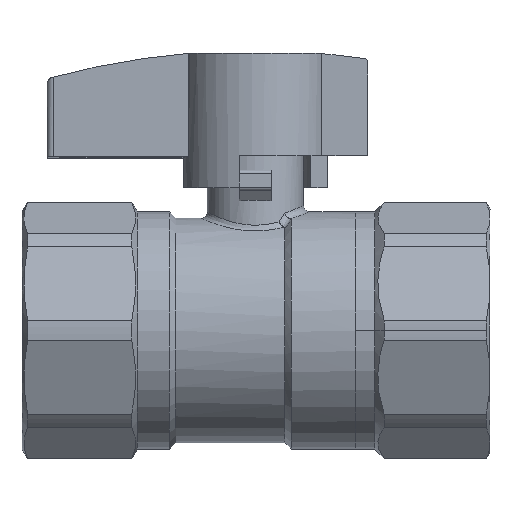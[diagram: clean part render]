
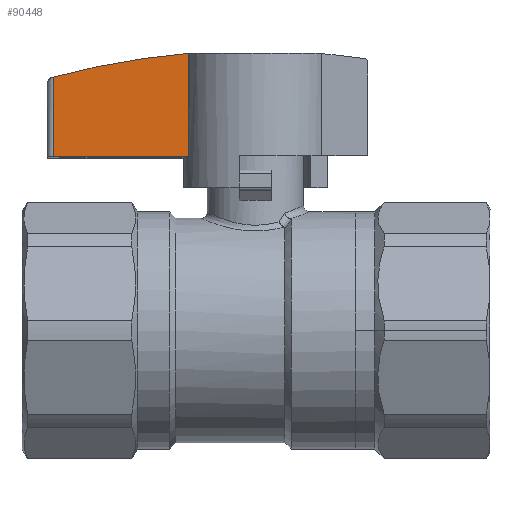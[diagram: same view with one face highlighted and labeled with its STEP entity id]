
A CAD part, front view. The second image highlights one B-rep face of the part: STEP entity #90448.
In plain terms, the highlighted planar face has unit normal (0, -1, 0).
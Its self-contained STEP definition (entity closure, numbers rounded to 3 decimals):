
#88763 = PLANE('',#88764);
#88764 = AXIS2_PLACEMENT_3D('',#88765,#88766,#88767);
#88765 = CARTESIAN_POINT('',(35.847,-10.48,
    -42.009));
#88766 = DIRECTION('',(0.,-0.017,
    -1.));
#88767 = DIRECTION('',(0.,1.,
    -0.017));
#89151 = CYLINDRICAL_SURFACE('',#89152,4.728);
#89152 = AXIS2_PLACEMENT_3D('',#89153,#89154,#89155);
#89153 = CARTESIAN_POINT('',(35.147,-10.48,
    -46.084));
#89154 = DIRECTION('',(0.,1.,0.));
#89155 = DIRECTION('',(0.,0.,1.));
#89532 = EDGE_CURVE('',#89533,#89535,#89537,.T.);
#89533 = VERTEX_POINT('',#89534);
#89534 = CARTESIAN_POINT('',(33.917,-10.48,
    -42.009));
#89535 = VERTEX_POINT('',#89536);
#89536 = CARTESIAN_POINT('',(34.75,-10.48,
    -42.009));
#89537 = SURFACE_CURVE('',#89538,(#89542,#89549),.PCURVE_S1.);
#89538 = LINE('',#89539,#89540);
#89539 = CARTESIAN_POINT('',(35.847,-10.48,
    -42.009));
#89540 = VECTOR('',#89541,1.);
#89541 = DIRECTION('',(1.,0.,0.));
#89542 = PCURVE('',#88763,#89543);
#89543 = DEFINITIONAL_REPRESENTATION('',(#89544),#89548);
#89544 = LINE('',#89545,#89546);
#89545 = CARTESIAN_POINT('',(0.,0.));
#89546 = VECTOR('',#89547,1.);
#89547 = DIRECTION('',(0.,1.));
#89548 = ( GEOMETRIC_REPRESENTATION_CONTEXT(2) 
PARAMETRIC_REPRESENTATION_CONTEXT() REPRESENTATION_CONTEXT('2D SPACE',''
  ) );
#89549 = PCURVE('',#89550,#89555);
#89550 = PLANE('',#89551);
#89551 = AXIS2_PLACEMENT_3D('',#89552,#89553,#89554);
#89552 = CARTESIAN_POINT('',(35.147,-10.48,
    -46.084));
#89553 = DIRECTION('',(0.,-1.,0.));
#89554 = DIRECTION('',(0.,0.,-1.));
#89555 = DEFINITIONAL_REPRESENTATION('',(#89556),#89560);
#89556 = LINE('',#89557,#89558);
#89557 = CARTESIAN_POINT('',(-4.075,0.7));
#89558 = VECTOR('',#89559,1.);
#89559 = DIRECTION('',(0.,1.));
#89560 = ( GEOMETRIC_REPRESENTATION_CONTEXT(2) 
PARAMETRIC_REPRESENTATION_CONTEXT() REPRESENTATION_CONTEXT('2D SPACE',''
  ) );
#89580 = CYLINDRICAL_SURFACE('',#89581,0.039);
#89581 = AXIS2_PLACEMENT_3D('',#89582,#89583,#89584);
#89582 = CARTESIAN_POINT('',(33.917,-10.44,
    -46.084));
#89583 = DIRECTION('',(0.,0.,1.));
#89584 = DIRECTION('',(-1.,0.,0.));
#89777 = CYLINDRICAL_SURFACE('',#89778,0.453);
#89778 = AXIS2_PLACEMENT_3D('',#89779,#89780,#89781);
#89779 = CARTESIAN_POINT('',(35.158,-10.283,
    -40.09));
#89780 = DIRECTION('',(0.,0.,-1.));
#89781 = DIRECTION('',(1.,0.,0.));
#90448 = ADVANCED_FACE('',(#90449),#89550,.T.);
#90449 = FACE_BOUND('',#90450,.T.);
#90450 = EDGE_LOOP('',(#90451,#90477,#90498,#90499));
#90451 = ORIENTED_EDGE('',*,*,#90452,.T.);
#90452 = EDGE_CURVE('',#90453,#90455,#90457,.T.);
#90453 = VERTEX_POINT('',#90454);
#90454 = CARTESIAN_POINT('',(34.75,-10.48,
    -41.373));
#90455 = VERTEX_POINT('',#90456);
#90456 = CARTESIAN_POINT('',(33.917,-10.48,
    -41.519));
#90457 = SURFACE_CURVE('',#90458,(#90463,#90470),.PCURVE_S1.);
#90458 = CIRCLE('',#90459,4.728);
#90459 = AXIS2_PLACEMENT_3D('',#90460,#90461,#90462);
#90460 = CARTESIAN_POINT('',(35.147,-10.48,
    -46.084));
#90461 = DIRECTION('',(0.,-1.,0.));
#90462 = DIRECTION('',(0.,0.,-1.));
#90463 = PCURVE('',#89550,#90464);
#90464 = DEFINITIONAL_REPRESENTATION('',(#90465),#90469);
#90465 = CIRCLE('',#90466,4.728);
#90466 = AXIS2_PLACEMENT_2D('',#90467,#90468);
#90467 = CARTESIAN_POINT('',(0.,0.));
#90468 = DIRECTION('',(1.,0.));
#90469 = ( GEOMETRIC_REPRESENTATION_CONTEXT(2) 
PARAMETRIC_REPRESENTATION_CONTEXT() REPRESENTATION_CONTEXT('2D SPACE',''
  ) );
#90470 = PCURVE('',#89151,#90471);
#90471 = DEFINITIONAL_REPRESENTATION('',(#90472),#90476);
#90472 = LINE('',#90473,#90474);
#90473 = CARTESIAN_POINT('',(9.425,0.));
#90474 = VECTOR('',#90475,1.);
#90475 = DIRECTION('',(-1.,0.));
#90476 = ( GEOMETRIC_REPRESENTATION_CONTEXT(2) 
PARAMETRIC_REPRESENTATION_CONTEXT() REPRESENTATION_CONTEXT('2D SPACE',''
  ) );
#90477 = ORIENTED_EDGE('',*,*,#90478,.T.);
#90478 = EDGE_CURVE('',#90455,#89533,#90479,.T.);
#90479 = SURFACE_CURVE('',#90480,(#90484,#90491),.PCURVE_S1.);
#90480 = LINE('',#90481,#90482);
#90481 = CARTESIAN_POINT('',(33.917,-10.48,
    -42.009));
#90482 = VECTOR('',#90483,1.);
#90483 = DIRECTION('',(0.,0.,-1.));
#90484 = PCURVE('',#89550,#90485);
#90485 = DEFINITIONAL_REPRESENTATION('',(#90486),#90490);
#90486 = LINE('',#90487,#90488);
#90487 = CARTESIAN_POINT('',(-4.075,-1.231));
#90488 = VECTOR('',#90489,1.);
#90489 = DIRECTION('',(1.,0.));
#90490 = ( GEOMETRIC_REPRESENTATION_CONTEXT(2) 
PARAMETRIC_REPRESENTATION_CONTEXT() REPRESENTATION_CONTEXT('2D SPACE',''
  ) );
#90491 = PCURVE('',#89580,#90492);
#90492 = DEFINITIONAL_REPRESENTATION('',(#90493),#90497);
#90493 = LINE('',#90494,#90495);
#90494 = CARTESIAN_POINT('',(1.571,4.075));
#90495 = VECTOR('',#90496,1.);
#90496 = DIRECTION('',(0.,-1.));
#90497 = ( GEOMETRIC_REPRESENTATION_CONTEXT(2) 
PARAMETRIC_REPRESENTATION_CONTEXT() REPRESENTATION_CONTEXT('2D SPACE',''
  ) );
#90498 = ORIENTED_EDGE('',*,*,#89532,.T.);
#90499 = ORIENTED_EDGE('',*,*,#90500,.F.);
#90500 = EDGE_CURVE('',#90453,#89535,#90501,.T.);
#90501 = SURFACE_CURVE('',#90502,(#90506,#90513),.PCURVE_S1.);
#90502 = LINE('',#90503,#90504);
#90503 = CARTESIAN_POINT('',(34.75,-10.48,
    -40.09));
#90504 = VECTOR('',#90505,1.);
#90505 = DIRECTION('',(0.,0.,-1.));
#90506 = PCURVE('',#89550,#90507);
#90507 = DEFINITIONAL_REPRESENTATION('',(#90508),#90512);
#90508 = LINE('',#90509,#90510);
#90509 = CARTESIAN_POINT('',(-5.993,-0.398));
#90510 = VECTOR('',#90511,1.);
#90511 = DIRECTION('',(1.,0.));
#90512 = ( GEOMETRIC_REPRESENTATION_CONTEXT(2) 
PARAMETRIC_REPRESENTATION_CONTEXT() REPRESENTATION_CONTEXT('2D SPACE',''
  ) );
#90513 = PCURVE('',#89777,#90514);
#90514 = DEFINITIONAL_REPRESENTATION('',(#90515),#90519);
#90515 = LINE('',#90516,#90517);
#90516 = CARTESIAN_POINT('',(2.692,0.));
#90517 = VECTOR('',#90518,1.);
#90518 = DIRECTION('',(0.,1.));
#90519 = ( GEOMETRIC_REPRESENTATION_CONTEXT(2) 
PARAMETRIC_REPRESENTATION_CONTEXT() REPRESENTATION_CONTEXT('2D SPACE',''
  ) );
